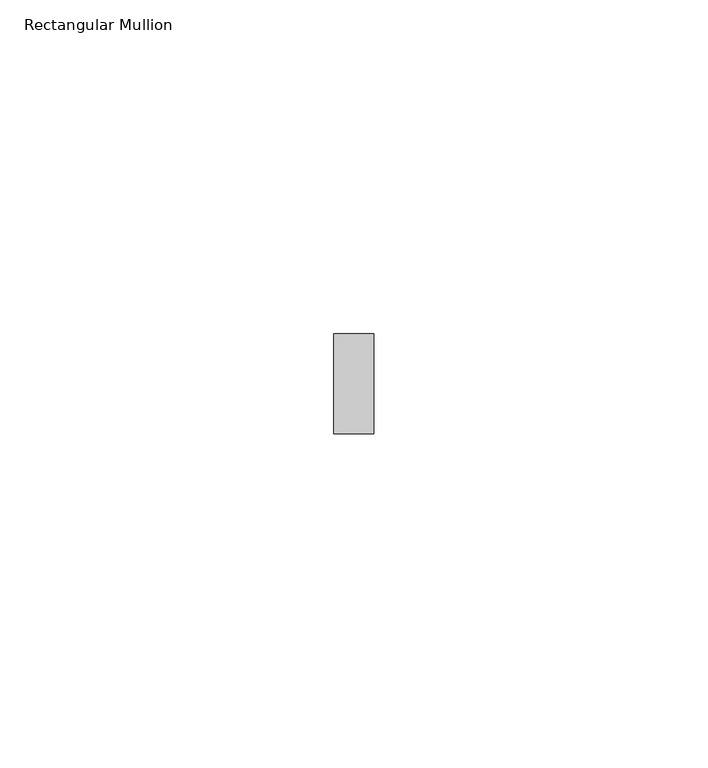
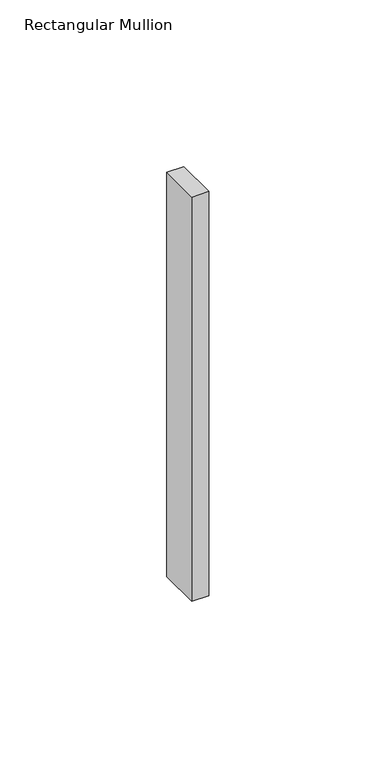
"""IFC4 building model written with IfcOpenShell, lengths in millimetres: member geometry, Rectangular Mullion : ARQ_HERR_15X6mm."""

from ifc_helpers import new_model, si_unit, frame, origin, place, context, project, spatial, polyline, outline, extrude, source, transform, mapped, element, save


def rectangular_mullion_3f5f0f74(model_context):
    return source(origin(), model_context, "Body", "SweptSolid", [
        extrude(outline(polyline([(3.0, 7.5), (3.0, -7.5), (-3.0, -7.5), (-3.0, 7.5), (3.0, 7.5)])), frame((0.0, 0.0, -148.0338449), z_axis=(0.0, 0.0, 1.0), x_axis=(1.0, 0.0, 0.0)), (0.0, 0.0, 1.0), 148.0338449),
    ])


if __name__ == "__main__":
    model = new_model("IFC4")
    model_context = context("Model", 3, world=origin())
    ifc_project = project(units=[si_unit("LENGTHUNIT", "METRE", prefix="MILLI")], contexts=[model_context])
    site = spatial("IfcSite", under=ifc_project)
    building = spatial("IfcBuilding", under=site)
    placement = place(None, origin())
    rectangular_mullion_shape = rectangular_mullion_3f5f0f74(model_context)
    element("IfcMember", 1, ObjectType="Rectangular Mullion : ARQ_HERR_15X6mm", at=placement, inside=building, context=model_context, shape_type="MappedRepresentation", body=[
        mapped(rectangular_mullion_shape, transform((0.0, 0.0, 0.0), x_axis=(1.0, 0.0, 0.0), y_axis=(0.0, 1.0, 0.0), z_axis=(0.0, 0.0, 1.0))),
    ])
    save(model, "model.ifc")
